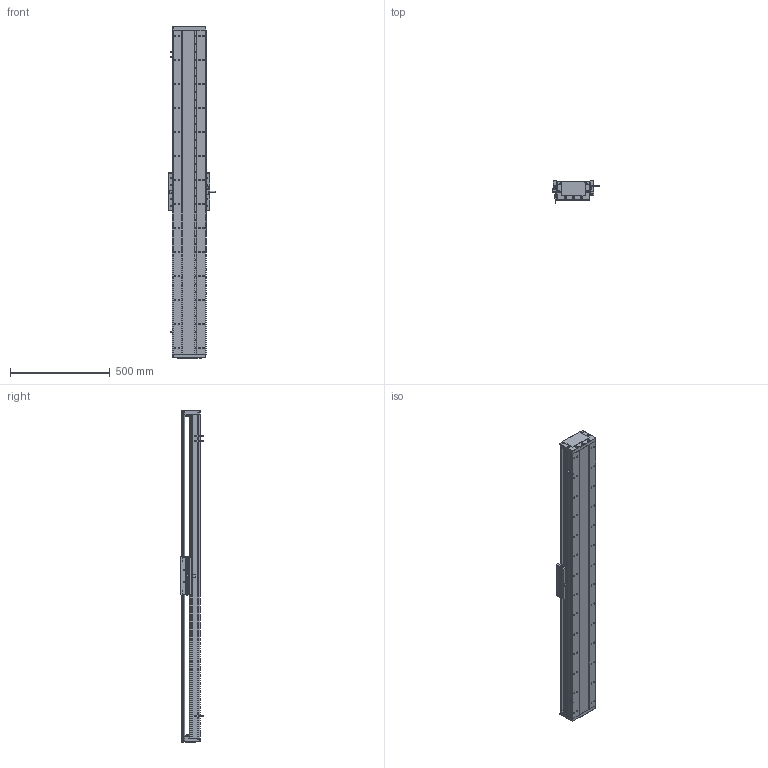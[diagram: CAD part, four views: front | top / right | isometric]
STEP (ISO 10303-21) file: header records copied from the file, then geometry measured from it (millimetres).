
FILE_DESCRIPTION (( 'STEP AP203' ), '1' );
FILE_NAME ('DA-C165-C2-T1380-C010-0.2 直线电机.STEP', '2023-05-11T07:37:01', ( '微软用户' ), ( '微软中国' ), 'SwSTEP 2.0', 'SolidWorks 2019', '' );
FILE_SCHEMA (( 'CONFIG_CONTROL_DESIGN' ));
Length unit declared in the file: millimetre
Products named in the file (15): IU-CU165-L-00 菁釱_L1620; 复件 六角薄螺母 M3^DA-C165-C2-T-C010-0.2-N 直线电机_GB_FASTENER_NUT_STNAB M3-C; 葩璃 CKM01-W075-TRL^DA-C165-C2-T-C010-0.2-N 眻盄萇儂; 复件 DA165-T-002-00 盖板^DA-C165-C2-T-C010-0.2-N 直线电机_0840-002-00; 复件 DA95-HXJ-00 缓冲橡胶^DA-C165-C2-T-C010-0.2-N 直线电机; 葩璃 DA95-GT-T-00^IU-CU165-L 菁釱絳寢_T; 复件 CKM02-W075-C1C2-TP-3.0 一体电机-C2^DA-C165-C2-T-C010-0.2-N 直线电机; 复件 DA165-DG-H-N-00 端盖^DA-C165-C2-T-C010-0.2-N 直线电机; 珨极趙賑雄怢啣wf-C2; 葩璃 PM-T45^DA-C165-C2-T-C010-0.2-N 眻盄萇儂; DA-C165-C2-T1380-C010-0.2 眻盄萇儂; 复件 DA165-GYP-00 光电感应片^DA-C165-C2-T-C010-0.2-N 直线电机; 复件 XD-U-02L 磁栅尺^DA-C165-C2-T-C010-0.2-N 直线电机_T; 复件 DMA-010-0.2 读数头^DA-C165-C2-T-C010-0.2-N 直线电机; IU-CU165-L 菁釱絳寢
Assembly tree (28 placements, depth 3):
  DA-C165-C2-T1380-C010-0.2 眻盄萇儂
    IU-CU165-L 菁釱絳寢
      IU-CU165-L-00 菁釱_L1620
      葩璃 DA95-GT-T-00^IU-CU165-L 菁釱絳寢_T  x4
    复件 DA165-DG-H-N-00 端盖^DA-C165-C2-T-C010-0.2-N 直线电机  x2
    复件 DA95-HXJ-00 缓冲橡胶^DA-C165-C2-T-C010-0.2-N 直线电机  x4
    复件 DA165-T-002-00 盖板^DA-C165-C2-T-C010-0.2-N 直线电机_0840-002-00
    复件 XD-U-02L 磁栅尺^DA-C165-C2-T-C010-0.2-N 直线电机_T
    葩璃 PM-T45^DA-C165-C2-T-C010-0.2-N 眻盄萇儂  x3
    葩璃 CKM01-W075-TRL^DA-C165-C2-T-C010-0.2-N 眻盄萇儂
    复件 DA165-GYP-00 光电感应片^DA-C165-C2-T-C010-0.2-N 直线电机
    复件 DMA-010-0.2 读数头^DA-C165-C2-T-C010-0.2-N 直线电机
    复件 CKM02-W075-C1C2-TP-3.0 一体电机-C2^DA-C165-C2-T-C010-0.2-N 直线电机
    复件 六角薄螺母 M3^DA-C165-C2-T-C010-0.2-N 直线电机_GB_FASTENER_NUT_STNAB M3-C  x6
    珨极趙賑雄怢啣wf-C2
Bounding box: 233 x 111.45 x 1660 mm (x, y, z)
Volume: 11040354.2 mm3; surface area: 3125626.3 mm2
Topology: 66 solids, 66 shells, 3384 faces, 9586 edges, 6065 vertices
Faces by surface type: cylinder 1839, plane 1081, cone 406, torus 54, sphere 4
Entity records: 108101 total; most frequent: CARTESIAN_POINT 27230, ORIENTED_EDGE 16646, DIRECTION 16494, EDGE_CURVE 8323, AXIS2_PLACEMENT_3D 6231, VERTEX_POINT 5401, VECTOR 4032, LINE 4032
